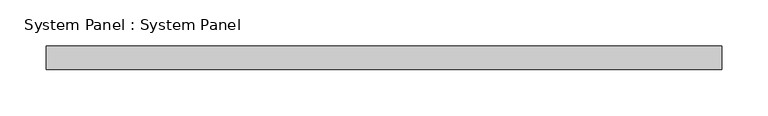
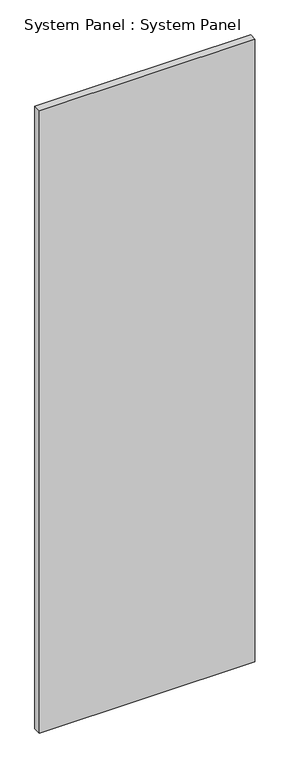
"""IFC4 building model written with IfcOpenShell, lengths in millimetres: plate geometry, System Panel : System Panel."""

import ifcopenshell
import ifcopenshell.guid

model = None  # the IFC model being written
_history = None  # IfcOwnerHistory: only IFC2X3 demands one
_inside = {}  # id of a spatial element -> (the spatial element, [elements in it])
_under = {}  # id of a project, library or spatial element -> (it, [spatial elements below it])
_declared = {}  # id of a project -> (the project, [libraries it declares])
_typed = {}  # id of a type object -> (the type object, [elements of that type])
_made_of = {}  # id of a material, layer set ... -> (it, [elements and type objects made of it])


def new_model(schema):
    """Start an empty IFC model of exactly this schema.

    Asked for "IFC4X3", IfcOpenShell would pick the latest addendum, in which some entities
    have other attributes; the version numbers below select the first issue.
    IFC2X3 requires an IfcOwnerHistory on every rooted entity: one is made here for all.
    """
    global model, _history
    if schema == "IFC4X3":
        model = ifcopenshell.file(schema_version=(4, 3, 0, 0))
    else:
        model = ifcopenshell.file(schema=schema)
    _inside.clear()
    _under.clear()
    _declared.clear()
    _typed.clear()
    _made_of.clear()
    _history = None
    if model.schema == "IFC2X3":
        org = make("IfcOrganization", Name="unknown")
        user = make(
            "IfcPersonAndOrganization",
            ThePerson=make("IfcPerson", FamilyName="unknown"),
            TheOrganization=org,
        )
        app = make(
            "IfcApplication",
            ApplicationDeveloper=org,
            Version="unknown",
            ApplicationFullName="unknown",
            ApplicationIdentifier="unknown",
        )
        _history = make(
            "IfcOwnerHistory",
            OwningUser=user,
            OwningApplication=app,
            ChangeAction="ADDED",
            CreationDate=0,
        )
    return model


def make(cls, **values):
    """One entity of the class cls with the attributes given. An attribute that is None is left unset."""
    return model.create_entity(
        cls, **{name: value for name, value in values.items() if value is not None}
    )


def rooted(cls, **values):
    """An entity with a GlobalId (a new one), such as an element, a storey or a relation."""
    return make(cls, GlobalId=ifcopenshell.guid.new(), OwnerHistory=_history, **values)


def si_unit(unit_type, name, prefix=None):
    """IfcSIUnit, for example si_unit("LENGTHUNIT", "METRE", prefix="MILLI")."""
    return make("IfcSIUnit", UnitType=unit_type, Prefix=prefix, Name=name)


def assignment(units):
    """IfcUnitAssignment: the units of a project."""
    return None if units is None else make("IfcUnitAssignment", Units=units)


def point(xyz):
    """IfcCartesianPoint."""
    return None if xyz is None else make("IfcCartesianPoint", Coordinates=xyz)


def direction(xyz):
    """IfcDirection."""
    return None if xyz is None else make("IfcDirection", DirectionRatios=xyz)


def frame(location, z_axis=None, x_axis=None):
    """IfcAxis2Placement3D, a coordinate frame: its origin and axes. An axis left out is left unset."""
    return make(
        "IfcAxis2Placement3D",
        Location=point(location),
        Axis=direction(z_axis),
        RefDirection=direction(x_axis),
    )


def origin():
    """The frame at (0, 0, 0) with its axes left unset."""
    return frame((0.0, 0.0, 0.0))


def origin_with_axes():
    """The frame at (0, 0, 0) with the z axis (0, 0, 1) and the x axis (1, 0, 0) written out."""
    return frame((0.0, 0.0, 0.0), z_axis=(0.0, 0.0, 1.0), x_axis=(1.0, 0.0, 0.0))


def place(relative_to, where):
    """IfcLocalPlacement: puts the frame where relative to a parent placement (None: the world)."""
    return make(
        "IfcLocalPlacement", PlacementRelTo=relative_to, RelativePlacement=where
    )


def context(
    kind, dimensions, precision=None, world=None, true_north=None, identifier=None
):
    """IfcGeometricRepresentationContext, for example the 3D "Model" context."""
    return make(
        "IfcGeometricRepresentationContext",
        ContextIdentifier=identifier,
        ContextType=kind,
        CoordinateSpaceDimension=dimensions,
        Precision=precision,
        WorldCoordinateSystem=world,
        TrueNorth=true_north,
    )


def project(units=None, contexts=None):
    """IfcProject with its units and contexts."""
    return rooted(
        "IfcProject",
        Name="project",
        RepresentationContexts=contexts,
        UnitsInContext=assignment(units),
    )


def spatial(cls, under=None, at=None, **own):
    """A site, building, storey or space (cls), placed at a placement, below another one or the project."""
    s = rooted(cls, ObjectPlacement=at, **own)
    if under is not None:
        _under.setdefault(under.id(), (under, []))[1].append(s)
    return s


def polyline(points):
    """IfcPolyline through the points."""
    return make("IfcPolyline", Points=[point(p) for p in points])


def outline(outer, holes=None, kind="AREA"):
    """IfcArbitraryClosedProfileDef: a profile drawn as a closed curve; with holes, ...WithVoids."""
    if holes is None:
        return make("IfcArbitraryClosedProfileDef", ProfileType=kind, OuterCurve=outer)
    return make(
        "IfcArbitraryProfileDefWithVoids",
        ProfileType=kind,
        OuterCurve=outer,
        InnerCurves=holes,
    )


def extrude(swept, where, along, depth):
    """IfcExtrudedAreaSolid: the profile swept, set in the frame where, extruded along a direction by depth."""
    return make(
        "IfcExtrudedAreaSolid",
        SweptArea=swept,
        Position=where,
        ExtrudedDirection=direction(along),
        Depth=depth,
    )


def shape(context_of_items, identifier, shape_type, items):
    """IfcShapeRepresentation: the items that make up one representation, for example the "Body"."""
    return make(
        "IfcShapeRepresentation",
        ContextOfItems=context_of_items,
        RepresentationIdentifier=identifier,
        RepresentationType=shape_type,
        Items=items,
    )


def source(mapping_origin, context_of_items, identifier, shape_type, items):
    """IfcRepresentationMap: a shape defined once, which mapped items show again and again."""
    return make(
        "IfcRepresentationMap",
        MappingOrigin=mapping_origin,
        MappedRepresentation=shape(context_of_items, identifier, shape_type, items),
    )


def transform(
    local_origin,
    x_axis=None,
    y_axis=None,
    z_axis=None,
    scale=None,
    scale2=None,
    scale3=None,
    uniform=True,
):
    """IfcCartesianTransformationOperator3D, or its non-uniform kind. x_axis, y_axis, z_axis: its Axis1, 2, 3."""
    if uniform:
        return make(
            "IfcCartesianTransformationOperator3D",
            Axis1=direction(x_axis),
            Axis2=direction(y_axis),
            LocalOrigin=point(local_origin),
            Scale=scale,
            Axis3=direction(z_axis),
        )
    return make(
        "IfcCartesianTransformationOperator3DnonUniform",
        Axis1=direction(x_axis),
        Axis2=direction(y_axis),
        LocalOrigin=point(local_origin),
        Scale=scale,
        Axis3=direction(z_axis),
        Scale2=scale2,
        Scale3=scale3,
    )


def mapped(mapping_source, mapping_target):
    """IfcMappedItem: shows the shape of a source again, moved by a transform."""
    return make(
        "IfcMappedItem", MappingSource=mapping_source, MappingTarget=mapping_target
    )


def made_of(thing, what):
    """Note that an element or type object is made of a material, layer set ...; save() writes the relation."""
    if what is not None:
        _made_of.setdefault(what.id(), (what, []))[1].append(thing)
    return thing


def element(
    cls,
    number,
    at=None,
    inside=None,
    cuts=None,
    type_object=None,
    material=None,
    context=None,
    identifier="Body",
    shape_type=None,
    held_by="IfcProductDefinitionShape",
    body=None,
    shapes=None,
    **own,
):
    """One element of the class cls, such as IfcWall. Its Tag is "e" and its number.

    at: its placement. inside: the storey or other place that contains it. cuts: it is an
    opening in that element (IfcRelVoidsElement). A single representation is given by context,
    identifier, shape_type and body (its items); several are given by shapes. held_by: the class
    of the entity that holds the representations. save() writes the other relations.
    """
    e = rooted(cls, Tag="e%d" % number, ObjectPlacement=at, **own)
    if body is not None:
        shapes = [shape(context, identifier, shape_type, body)]
    if shapes is not None:
        e.Representation = make(held_by, Representations=shapes)
    if inside is not None:
        _inside.setdefault(inside.id(), (inside, []))[1].append(e)
    if cuts is not None:
        rooted(
            "IfcRelVoidsElement", RelatingBuildingElement=cuts, RelatedOpeningElement=e
        )
    if type_object is not None:
        _typed.setdefault(type_object.id(), (type_object, []))[1].append(e)
    return made_of(e, material)


def aggregate(whole, parts):
    """IfcRelAggregates: a whole, such as a stair, and the parts it consists of."""
    return rooted("IfcRelAggregates", RelatingObject=whole, RelatedObjects=parts)


def save(model, path):
    """Write the relations noted so far, then the file.

    IfcRelAggregates (storeys below a building ...), IfcRelContainedInSpatialStructure (elements
    in a storey), IfcRelDefinesByType, IfcRelAssociatesMaterial and IfcRelDeclares: one each for
    every whole, place, type object, material and project.
    """
    for whole, parts in _under.values():
        aggregate(whole, parts)
    for where, things in _inside.values():
        rooted(
            "IfcRelContainedInSpatialStructure",
            RelatedElements=things,
            RelatingStructure=where,
        )
    for kind, things in _typed.values():
        rooted("IfcRelDefinesByType", RelatedObjects=things, RelatingType=kind)
    for what, things in _made_of.values():
        rooted("IfcRelAssociatesMaterial", RelatedObjects=things, RelatingMaterial=what)
    for by, libraries in _declared.values():
        rooted("IfcRelDeclares", RelatingContext=by, RelatedDefinitions=libraries)
    model.write(path)


def system_panel_system_panel_8af6dda9(model_context):
    return source(origin(), model_context, "Body", "SweptSolid", [
        extrude(outline(polyline([(365.125, 19.05), (-365.125, 19.05), (-365.125, 44.45), (365.125, 44.45), (365.125, 19.05)])), origin_with_axes(), (0.0, 0.0, 1.0), 2228.85),
    ])


if __name__ == "__main__":
    model = new_model("IFC4")
    model_context = context("Model", 3, world=origin())
    ifc_project = project(units=[si_unit("LENGTHUNIT", "METRE", prefix="MILLI")], contexts=[model_context])
    site = spatial("IfcSite", under=ifc_project)
    building = spatial("IfcBuilding", under=site)
    placement = place(None, origin())
    system_panel_system_panel_shape = system_panel_system_panel_8af6dda9(model_context)
    element("IfcPlate", 1, ObjectType="System Panel : System Panel", at=placement, inside=building, context=model_context, shape_type="MappedRepresentation", body=[
        mapped(system_panel_system_panel_shape, transform((0.0, 0.0, 0.0), x_axis=(1.0, 0.0, 0.0), y_axis=(0.0, 1.0, 0.0), z_axis=(0.0, 0.0, 1.0))),
    ])
    save(model, "model.ifc")
